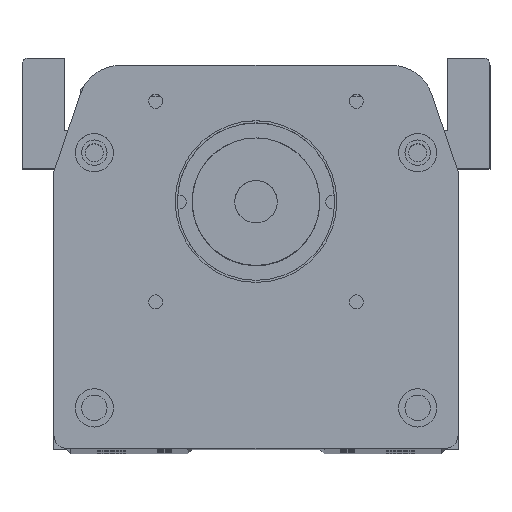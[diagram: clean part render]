
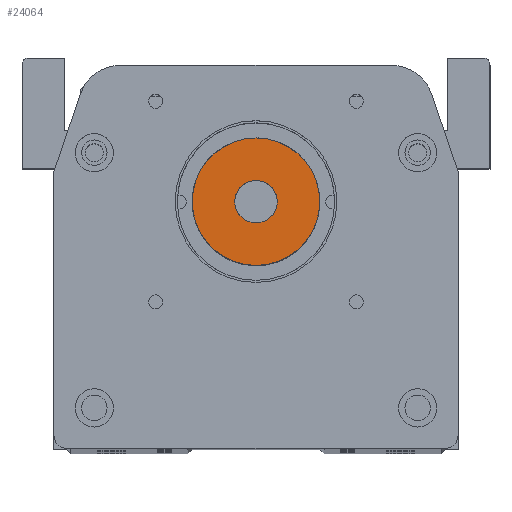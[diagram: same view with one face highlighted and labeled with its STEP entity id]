
A CAD part, top view. The second image highlights one B-rep face of the part: STEP entity #24064.
In plain terms, the highlighted planar face has unit normal (0, 0, 1).
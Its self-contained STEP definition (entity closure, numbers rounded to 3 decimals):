
#1246 = DIRECTION ( 'NONE',  ( 0., 0., 1. ) ) ;
#2522 = DIRECTION ( 'NONE',  ( 0., 0., 1. ) ) ;
#2919 = CARTESIAN_POINT ( 'NONE',  ( -6.16, 0., 40.753 ) ) ;
#3295 = FACE_BOUND ( 'NONE', #42874, .T. ) ;
#4264 = VERTEX_POINT ( 'NONE', #34093 ) ;
#5102 = EDGE_CURVE ( 'NONE', #17723, #40507, #40445, .T. ) ;
#6301 = DIRECTION ( 'NONE',  ( 1., 0., 0. ) ) ;
#7130 = DIRECTION ( 'NONE',  ( 1., 0., 0. ) ) ;
#8094 = AXIS2_PLACEMENT_3D ( 'NONE', #2919, #26550, #6301 ) ;
#8862 = EDGE_CURVE ( 'NONE', #34103, #4264, #29177, .T. ) ;
#9306 = ORIENTED_EDGE ( 'NONE', *, *, #8862, .F. ) ;
#11096 = ORIENTED_EDGE ( 'NONE', *, *, #26363, .F. ) ;
#13071 = AXIS2_PLACEMENT_3D ( 'NONE', #40091, #19866, #43449 ) ;
#13217 = ORIENTED_EDGE ( 'NONE', *, *, #25878, .T. ) ;
#17723 = VERTEX_POINT ( 'NONE', #34131 ) ;
#19537 = CARTESIAN_POINT ( 'NONE',  ( -21.138, 0., 40.753 ) ) ;
#19866 = DIRECTION ( 'NONE',  ( 0., 0., 1. ) ) ;
#20557 = CARTESIAN_POINT ( 'NONE',  ( -6.16, 0., 40.753 ) ) ;
#21467 = CARTESIAN_POINT ( 'NONE',  ( -6.16, 0., 40.753 ) ) ;
#21550 = AXIS2_PLACEMENT_3D ( 'NONE', #22748, #2522, #26164 ) ;
#22748 = CARTESIAN_POINT ( 'NONE',  ( -6.16, 0., 40.753 ) ) ;
#23968 = PLANE ( 'NONE',  #26620 ) ;
#24064 = ADVANCED_FACE ( 'NONE', ( #30263, #3295 ), #23968, .T. ) ;
#24066 = CARTESIAN_POINT ( 'NONE',  ( -11.163, 0., 40.753 ) ) ;
#24193 = CIRCLE ( 'NONE', #13071, 5.003 ) ;
#24877 = DIRECTION ( 'NONE',  ( 1., 0., 0. ) ) ;
#25878 = EDGE_CURVE ( 'NONE', #40507, #17723, #32283, .T. ) ;
#26164 = DIRECTION ( 'NONE',  ( 1., 0., 0. ) ) ;
#26363 = EDGE_CURVE ( 'NONE', #4264, #34103, #24193, .T. ) ;
#26550 = DIRECTION ( 'NONE',  ( 0., 0., 1. ) ) ;
#26620 = AXIS2_PLACEMENT_3D ( 'NONE', #20557, #27395, #7130 ) ;
#27395 = DIRECTION ( 'NONE',  ( 0., 0., 1. ) ) ;
#27485 = EDGE_LOOP ( 'NONE', ( #13217, #31371 ) ) ;
#29177 = CIRCLE ( 'NONE', #30176, 5.003 ) ;
#30176 = AXIS2_PLACEMENT_3D ( 'NONE', #21467, #1246, #24877 ) ;
#30263 = FACE_OUTER_BOUND ( 'NONE', #27485, .T. ) ;
#31371 = ORIENTED_EDGE ( 'NONE', *, *, #5102, .T. ) ;
#32283 = CIRCLE ( 'NONE', #21550, 14.978 ) ;
#34093 = CARTESIAN_POINT ( 'NONE',  ( -1.157, 0., 40.753 ) ) ;
#34103 = VERTEX_POINT ( 'NONE', #24066 ) ;
#34131 = CARTESIAN_POINT ( 'NONE',  ( 8.817, 0., 40.753 ) ) ;
#40091 = CARTESIAN_POINT ( 'NONE',  ( -6.16, 0., 40.753 ) ) ;
#40445 = CIRCLE ( 'NONE', #8094, 14.978 ) ;
#40507 = VERTEX_POINT ( 'NONE', #19537 ) ;
#42874 = EDGE_LOOP ( 'NONE', ( #9306, #11096 ) ) ;
#43449 = DIRECTION ( 'NONE',  ( 1., 0., 0. ) ) ;
